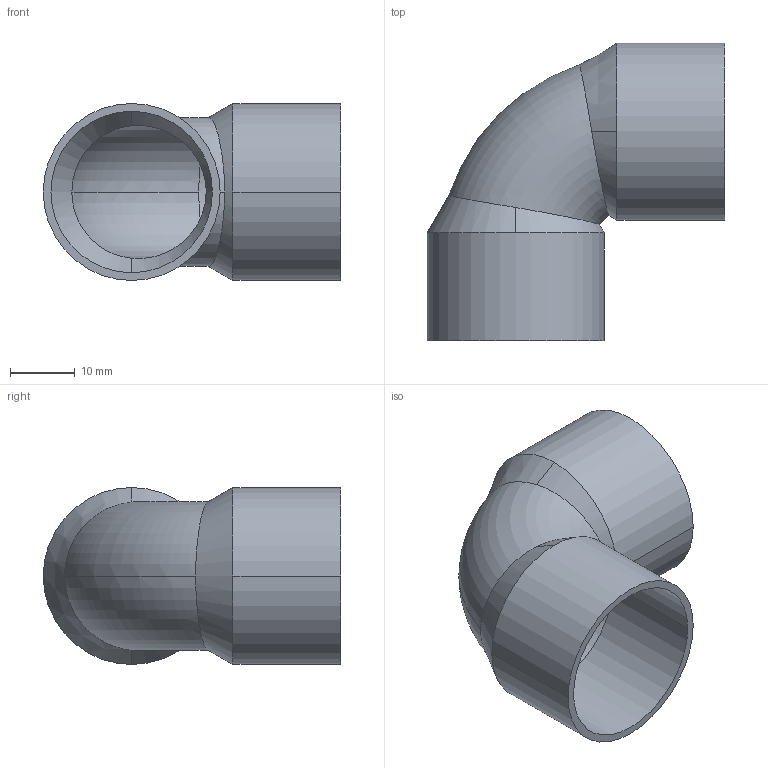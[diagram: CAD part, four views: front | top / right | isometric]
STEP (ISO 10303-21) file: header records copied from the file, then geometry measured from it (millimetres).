
FILE_DESCRIPTION((''),'2;1');
FILE_NAME('G:\SANHA-TERNAT\Technik\Deckel\UUU\Producttek\1509025\1509025(0).stp','2007-07-16T11:15:37',('vdvijverd'),(''),'Autodesk Inventor 8','Autodesk Inventor 8','');
FILE_SCHEMA(('AUTOMOTIVE_DESIGN { 1 0 10303 214 1 1 1 1 }'));
Length unit declared in the file: millimetre
Products named in the file (1): 5090_25
Bounding box: 46.08 x 46.08 x 27.4 mm (x, y, z)
Volume: 5364.7 mm3; surface area: 9138.2 mm2
Topology: 1 solids, 1 shells, 22 faces, 60 edges, 40 vertices
Faces by surface type: bspline 9, torus 4, cylinder 4, cone 4, plane 1
Entity records: 995 total; most frequent: CARTESIAN_POINT 446, ORIENTED_EDGE 120, DIRECTION 100, EDGE_CURVE 60, AXIS2_PLACEMENT_3D 42, VERTEX_POINT 40, CIRCLE 28, EDGE_LOOP 24
